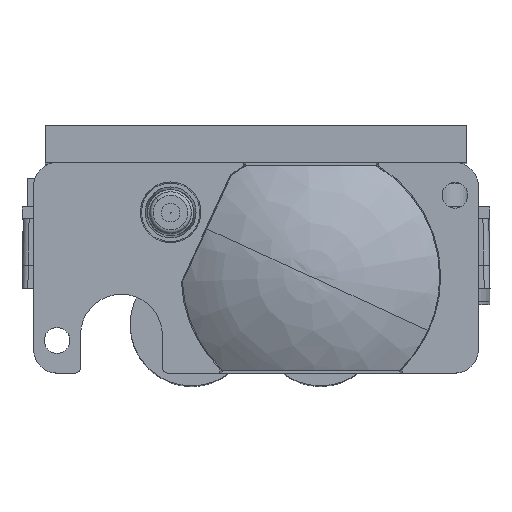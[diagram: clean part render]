
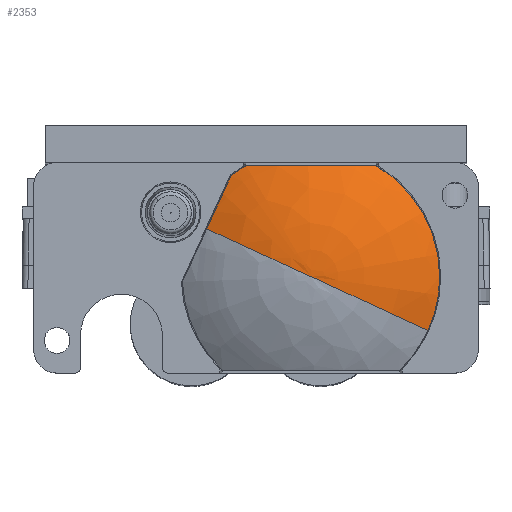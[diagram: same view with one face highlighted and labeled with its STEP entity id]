
A CAD part, top view. The second image highlights one B-rep face of the part: STEP entity #2353.
In plain terms, the highlighted face is a revolution surface.
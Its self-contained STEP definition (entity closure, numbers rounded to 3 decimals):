
#2022=CARTESIAN_POINT('',(9.999,-4.584,
-3.692));
#2023=CARTESIAN_POINT('',(9.903,-4.54,
-3.619));
#2024=CARTESIAN_POINT('',(9.58,-4.392,
-3.377));
#2025=CARTESIAN_POINT('',(9.023,-4.137,
-2.99));
#2026=CARTESIAN_POINT('',(8.33,-3.819,
-2.541));
#2027=CARTESIAN_POINT('',(7.636,-3.501,
-2.129));
#2028=CARTESIAN_POINT('',(6.942,-3.183,
-1.755));
#2029=CARTESIAN_POINT('',(6.248,-2.864,
-1.418));
#2030=CARTESIAN_POINT('',(5.554,-2.546,
-1.117));
#2031=CARTESIAN_POINT('',(4.86,-2.228,
-0.852));
#2032=CARTESIAN_POINT('',(4.165,-1.91,
-0.624));
#2033=CARTESIAN_POINT('',(3.471,-1.591,
-0.431));
#2034=CARTESIAN_POINT('',(2.777,-1.273,
-0.273));
#2035=CARTESIAN_POINT('',(2.083,-0.955,
-0.151));
#2036=CARTESIAN_POINT('',(1.388,-0.637,
-0.064));
#2037=CARTESIAN_POINT('',(0.696,-0.319,
-0.012));
#2038=CARTESIAN_POINT('',(0.232,-0.106,
0.));
#2039=CARTESIAN_POINT('',(0.002,-0.001,
0.));
#2044=CARTESIAN_POINT('',(0.002,-0.001,
0.));
#2045=CARTESIAN_POINT('',(0.001,0.,
0.));
#2046=CARTESIAN_POINT('',(0.001,0.,0.));
#2047=CARTESIAN_POINT('',(0.,0.,0.));
#2052=CARTESIAN_POINT('',(-8.908,4.084,
-2.919));
#2053=CARTESIAN_POINT('',(-8.774,4.377,
-2.919));
#2054=CARTESIAN_POINT('',(-8.502,4.97,
-2.937));
#2055=CARTESIAN_POINT('',(-8.073,5.906,
-3.031));
#2056=CARTESIAN_POINT('',(-7.656,6.817,
-3.187));
#2057=CARTESIAN_POINT('',(-7.25,7.701,
-3.396));
#2058=CARTESIAN_POINT('',(-6.968,8.316,
-3.586));
#2059=CARTESIAN_POINT('',(-6.826,8.626,
-3.692));
#2064=CARTESIAN_POINT('',(0.,0.,-3.692));
#2065=DIRECTION('',(0.,0.,-1.));
#2066=DIRECTION('',(-0.621,0.784,0.));
#2067=AXIS2_PLACEMENT_3D('',#2064,#2065,#2066);
#2072=CARTESIAN_POINT('',(-5.545,9.5,-3.692));
#2073=CARTESIAN_POINT('',(-5.131,9.5,-3.549));
#2074=CARTESIAN_POINT('',(-4.336,9.5,-3.305));
#2075=CARTESIAN_POINT('',(-3.271,9.5,-3.059));
#2076=CARTESIAN_POINT('',(-2.274,9.5,-2.889));
#2077=CARTESIAN_POINT('',(-1.19,9.5,-2.771));
#2078=CARTESIAN_POINT('',(-0.067,9.5,-2.727));
#2079=CARTESIAN_POINT('',(1.046,9.5,-2.761));
#2080=CARTESIAN_POINT('',(2.145,9.5,-2.87));
#2081=CARTESIAN_POINT('',(3.204,9.5,-3.045));
#2082=CARTESIAN_POINT('',(4.303,9.5,-3.295));
#2083=CARTESIAN_POINT('',(5.121,9.5,-3.545));
#2084=CARTESIAN_POINT('',(5.545,9.5,-3.692));
#2089=CARTESIAN_POINT('',(0.,0.,-3.692));
#2090=DIRECTION('',(0.,0.,-1.));
#2091=DIRECTION('',(0.504,0.864,0.));
#2092=AXIS2_PLACEMENT_3D('',#2089,#2090,#2091);
#2097=CARTESIAN_POINT('',(0.,0.,-3.692));
#2098=DIRECTION('',(0.,0.,-1.));
#2099=DIRECTION('',(1.,0.,0.));
#2100=AXIS2_PLACEMENT_3D('',#2097,#2098,#2099);
#2105=CARTESIAN_POINT('',(-8.908,4.084,
-2.919));
#2106=CARTESIAN_POINT('',(-8.715,3.995,
-2.79));
#2107=CARTESIAN_POINT('',(-8.293,3.802,
-2.519));
#2108=CARTESIAN_POINT('',(-7.636,3.501,
-2.129));
#2109=CARTESIAN_POINT('',(-6.942,3.183,
-1.755));
#2110=CARTESIAN_POINT('',(-6.248,2.864,
-1.418));
#2111=CARTESIAN_POINT('',(-5.554,2.546,
-1.117));
#2112=CARTESIAN_POINT('',(-4.86,2.228,
-0.852));
#2113=CARTESIAN_POINT('',(-4.165,1.91,
-0.624));
#2114=CARTESIAN_POINT('',(-3.471,1.591,
-0.431));
#2115=CARTESIAN_POINT('',(-2.777,1.273,
-0.273));
#2116=CARTESIAN_POINT('',(-2.083,0.955,
-0.151));
#2117=CARTESIAN_POINT('',(-1.389,0.637,
-0.064));
#2118=CARTESIAN_POINT('',(-0.694,0.318,
-0.012));
#2119=CARTESIAN_POINT('',(-0.231,0.106,0.));
#2120=CARTESIAN_POINT('',(0.,0.,0.));
#2282=VERTEX_POINT('',#2044);
#2283=VERTEX_POINT('',#2047);
#2284=VERTEX_POINT('',#2022);
#2285=VERTEX_POINT('',#2105);
#2286=VERTEX_POINT('',#2059);
#2287=CARTESIAN_POINT('',(-5.545,9.5,-3.692));
#2288=VERTEX_POINT('',#2287);
#2289=VERTEX_POINT('',#2084);
#2290=CARTESIAN_POINT('',(11.,0.,-3.692));
#2291=VERTEX_POINT('',#2290);
#2311=CARTESIAN_POINT('',(0.,0.,0.));
#2312=CARTESIAN_POINT('',(0.231,-0.106,0.));
#2313=CARTESIAN_POINT('',(0.694,-0.318,
-0.012));
#2314=CARTESIAN_POINT('',(1.389,-0.637,
-0.064));
#2315=CARTESIAN_POINT('',(2.083,-0.955,
-0.151));
#2316=CARTESIAN_POINT('',(2.777,-1.273,
-0.273));
#2317=CARTESIAN_POINT('',(3.471,-1.591,
-0.431));
#2318=CARTESIAN_POINT('',(4.165,-1.91,
-0.624));
#2319=CARTESIAN_POINT('',(4.86,-2.228,
-0.852));
#2320=CARTESIAN_POINT('',(5.554,-2.546,
-1.117));
#2321=CARTESIAN_POINT('',(6.248,-2.864,
-1.418));
#2322=CARTESIAN_POINT('',(6.942,-3.183,
-1.755));
#2323=CARTESIAN_POINT('',(7.636,-3.501,
-2.129));
#2324=CARTESIAN_POINT('',(8.33,-3.819,
-2.541));
#2325=CARTESIAN_POINT('',(9.023,-4.137,
-2.99));
#2326=CARTESIAN_POINT('',(9.58,-4.392,
-3.377));
#2327=CARTESIAN_POINT('',(9.933,-4.554,
-3.642));
#2328=CARTESIAN_POINT('',(10.058,-4.611,
-3.737));
#2329=CARTESIAN_POINT('',(10.087,-4.625,
-3.759));
#2331=CARTESIAN_POINT('',(0.,0.,-1.348));
#2332=DIRECTION('',(0.,0.,-1.));
#2333=AXIS1_PLACEMENT('',#2331,#2332);
#2334=SURFACE_OF_REVOLUTION('',#2330,#2333);
#2336=ORIENTED_EDGE('',*,*,#2335,.T.);
#2338=ORIENTED_EDGE('',*,*,#2337,.T.);
#2340=ORIENTED_EDGE('',*,*,#2339,.F.);
#2342=ORIENTED_EDGE('',*,*,#2341,.T.);
#2344=ORIENTED_EDGE('',*,*,#2343,.T.);
#2346=ORIENTED_EDGE('',*,*,#2345,.T.);
#2348=ORIENTED_EDGE('',*,*,#2347,.T.);
#2350=ORIENTED_EDGE('',*,*,#2349,.T.);
#2351=EDGE_LOOP('',(#2336,#2338,#2340,#2342,#2344,#2346,#2348,#2350));
#2352=FACE_OUTER_BOUND('',#2351,.F.);
#2040=B_SPLINE_CURVE_WITH_KNOTS('',3,(#2022,#2023,#2024,#2025,#2026,#2027,#2028,
#2029,#2030,#2031,#2032,#2033,#2034,#2035,#2036,#2037,#2038,#2039),
.UNSPECIFIED.,.F.,.F.,(4,1,1,1,1,1,1,1,1,1,1,1,1,1,1,4),(0.,0.033,
0.109,0.185,0.258,0.33,
0.401,0.471,0.539,0.607,
0.674,0.74,0.805,0.871,
0.935,1.),.UNSPECIFIED.);
#2048=B_SPLINE_CURVE_WITH_KNOTS('',3,(#2044,#2045,#2046,#2047),.UNSPECIFIED.,
.T.,.F.,(4,4),(0.,1.),.UNSPECIFIED.);
#2060=B_SPLINE_CURVE_WITH_KNOTS('',3,(#2052,#2053,#2054,#2055,#2056,#2057,#2058,
#2059),.UNSPECIFIED.,.F.,.F.,(4,1,1,1,1,4),(0.,0.2,0.4,0.6,0.8,1.),
.UNSPECIFIED.);
#2068=CIRCLE('',#2067,11.);
#2085=B_SPLINE_CURVE_WITH_KNOTS('',3,(#2072,#2073,#2074,#2075,#2076,#2077,#2078,
#2079,#2080,#2081,#2082,#2083,#2084),.UNSPECIFIED.,.F.,.F.,(4,1,1,1,1,1,1,1,1,1,
4),(0.,0.1,0.2,0.3,0.4,0.5,0.6,0.7,0.8,0.9,1.),
.UNSPECIFIED.);
#2093=CIRCLE('',#2092,11.);
#2101=CIRCLE('',#2100,11.);
#2121=B_SPLINE_CURVE_WITH_KNOTS('',3,(#2105,#2106,#2107,#2108,#2109,#2110,#2111,
#2112,#2113,#2114,#2115,#2116,#2117,#2118,#2119,#2120),.UNSPECIFIED.,.F.,.F.,(4,
1,1,1,1,1,1,1,1,1,1,1,1,4),(0.,0.072,0.156,
0.238,0.318,0.398,0.476,
0.552,0.628,0.704,0.778,
0.852,0.926,1.),.UNSPECIFIED.);
#2330=B_SPLINE_CURVE_WITH_KNOTS('',3,(#2311,#2312,#2313,#2314,#2315,#2316,#2317,
#2318,#2319,#2320,#2321,#2322,#2323,#2324,#2325,#2326,#2327,#2328,#2329),
.UNSPECIFIED.,.F.,.F.,(4,1,1,1,1,1,1,1,1,1,1,1,1,1,1,1,4),(0.,
0.064,0.128,0.193,0.258,
0.323,0.389,0.456,0.524,
0.593,0.663,0.735,0.807,
0.882,0.958,0.99,1.),.UNSPECIFIED.);
#2335=EDGE_CURVE('',#2284,#2282,#2040,.T.);
#2337=EDGE_CURVE('',#2282,#2283,#2048,.T.);
#2339=EDGE_CURVE('',#2285,#2283,#2121,.T.);
#2341=EDGE_CURVE('',#2285,#2286,#2060,.T.);
#2343=EDGE_CURVE('',#2286,#2288,#2068,.T.);
#2345=EDGE_CURVE('',#2288,#2289,#2085,.T.);
#2347=EDGE_CURVE('',#2289,#2291,#2093,.T.);
#2349=EDGE_CURVE('',#2291,#2284,#2101,.T.);
#2353=ADVANCED_FACE('',(#2352),#2334,.T.);
